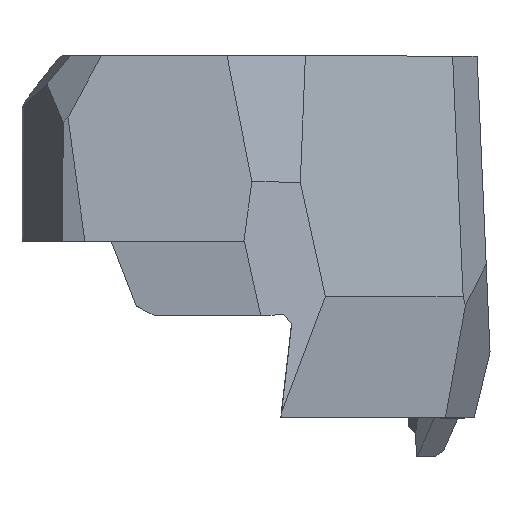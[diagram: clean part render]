
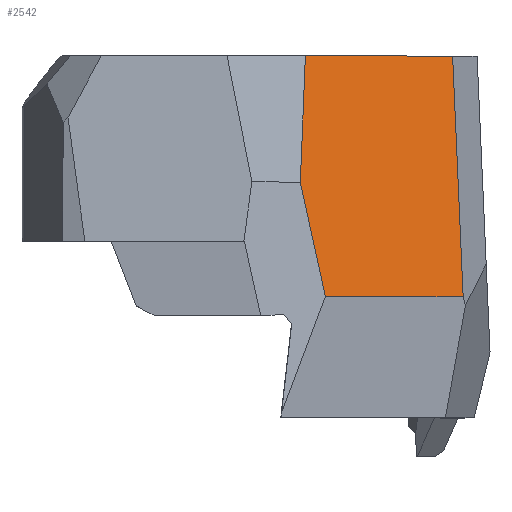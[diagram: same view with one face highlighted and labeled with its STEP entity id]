
A CAD part, top view. The second image highlights one B-rep face of the part: STEP entity #2542.
In plain terms, the highlighted planar face has unit normal (0.626, 0.07, 0.776).
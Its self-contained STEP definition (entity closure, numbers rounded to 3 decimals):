
#66=PLANE('',#2722);
#186=FACE_OUTER_BOUND('',#317,.T.);
#317=EDGE_LOOP('',(#2038,#2039,#2040,#2041,#2042));
#506=LINE('',#3713,#823);
#621=LINE('',#3966,#938);
#623=LINE('',#3971,#940);
#624=LINE('',#3972,#941);
#625=LINE('',#3973,#942);
#823=VECTOR('',#2973,10.);
#938=VECTOR('',#3174,1000.);
#940=VECTOR('',#3178,10.);
#941=VECTOR('',#3179,1000.);
#942=VECTOR('',#3180,1000.);
#1151=VERTEX_POINT('',#3710);
#1152=VERTEX_POINT('',#3712);
#1247=VERTEX_POINT('',#3964);
#1248=VERTEX_POINT('',#3969);
#1249=VERTEX_POINT('',#3970);
#1425=EDGE_CURVE('',#1152,#1151,#506,.T.);
#1550=EDGE_CURVE('',#1247,#1151,#621,.T.);
#1552=EDGE_CURVE('',#1248,#1249,#623,.F.);
#1553=EDGE_CURVE('',#1152,#1249,#624,.T.);
#1554=EDGE_CURVE('',#1248,#1247,#625,.T.);
#2038=ORIENTED_EDGE('',*,*,#1552,.T.);
#2039=ORIENTED_EDGE('',*,*,#1553,.F.);
#2040=ORIENTED_EDGE('',*,*,#1425,.T.);
#2041=ORIENTED_EDGE('',*,*,#1550,.F.);
#2042=ORIENTED_EDGE('',*,*,#1554,.F.);
#2542=ADVANCED_FACE('',(#186),#66,.T.);
#2722=AXIS2_PLACEMENT_3D('',#3968,#3176,#3177);
#2973=DIRECTION('',(-0.778,0.,0.628));
#3174=DIRECTION('',(0.04,0.992,-0.121));
#3176=DIRECTION('center_axis',(0.626,0.07,0.776));
#3177=DIRECTION('ref_axis',(0.778,0.,-0.628));
#3178=DIRECTION('',(-0.778,0.,0.628));
#3179=DIRECTION('',(0.044,-0.998,0.054));
#3180=DIRECTION('',(-0.214,0.973,0.085));
#3710=CARTESIAN_POINT('',(14.752,42.,128.173));
#3712=CARTESIAN_POINT('',(30.315,42.,115.616));
#3713=CARTESIAN_POINT('',(30.264,42.,115.656));
#3964=CARTESIAN_POINT('',(14.214,28.649,129.808));
#3966=CARTESIAN_POINT('',(14.148,27.021,130.007));
#3968=CARTESIAN_POINT('Origin',(30.586,26.926,116.751));
#3969=CARTESIAN_POINT('',(16.868,16.572,128.751));
#3970=CARTESIAN_POINT('',(31.425,16.572,117.005));
#3971=CARTESIAN_POINT('',(30.988,16.572,117.357));
#3972=CARTESIAN_POINT('',(30.82,30.435,116.247));
#3973=CARTESIAN_POINT('',(15.987,20.579,129.101));
